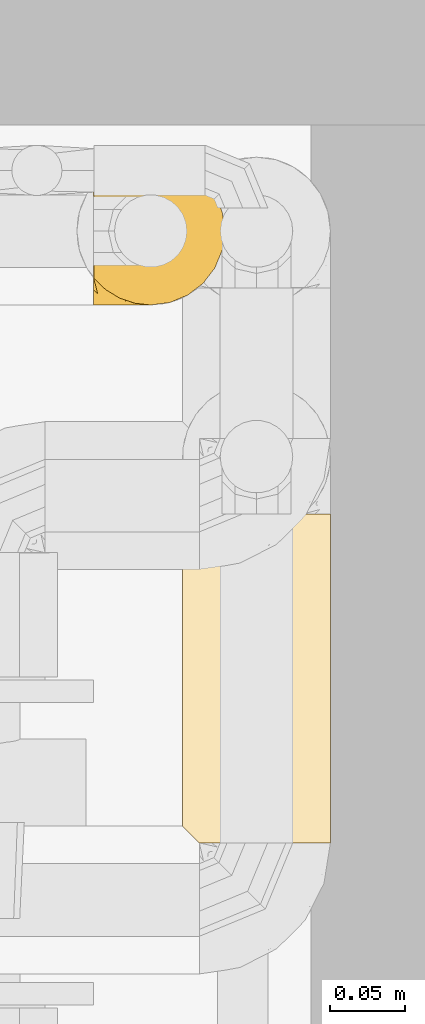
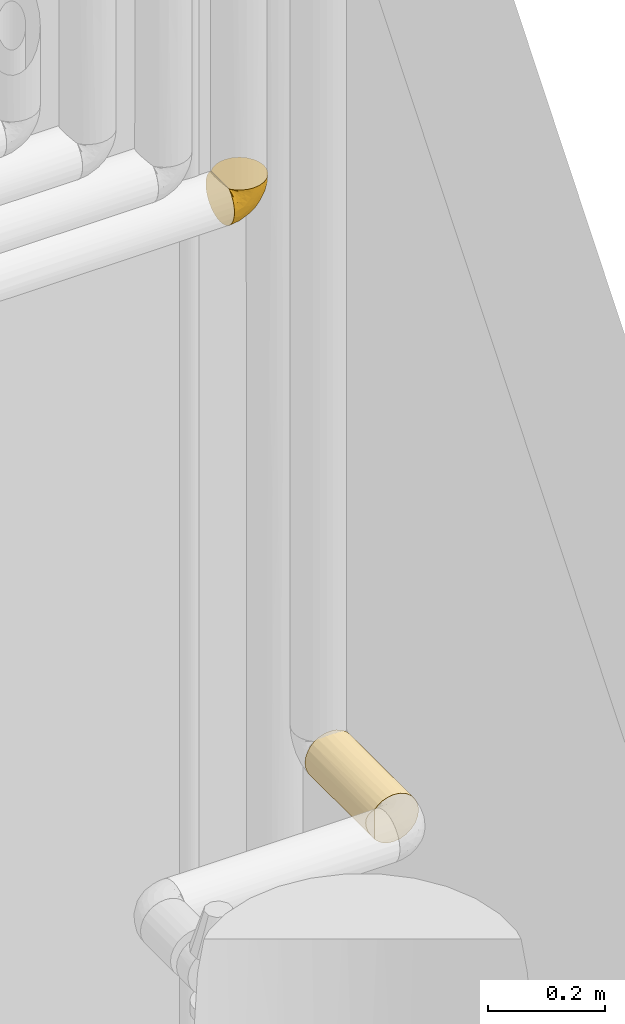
# One storey, part 62 of 94: 2 coverings.
"""IFC2X3 building model written with IfcOpenShell, lengths in millimetres."""

from ifc_helpers import new_model, entity, si_unit, converted_unit, derived_unit, direction, frame, origin, place, context, subcontext, project, spatial, faceted_brep, material, element, save


model = new_model("IFC2X3")

# Units and contexts
model_context = context("Model", 3, precision=0.01, world=origin(), true_north=direction((6.123031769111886e-17, 1.0)))
body_context = subcontext(model_context, "Body", "Model", "MODEL_VIEW")
ifc_project = project(units=[si_unit("LENGTHUNIT", "METRE", prefix="MILLI"), si_unit("AREAUNIT", "SQUARE_METRE"), si_unit("VOLUMEUNIT", "CUBIC_METRE"), converted_unit("PLANEANGLEUNIT", "DEGREE", entity("IfcRatioMeasure", 0.017453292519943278), si_unit("PLANEANGLEUNIT", "RADIAN"), dimensions=[0, 0, 0, 0, 0, 0, 0]), si_unit("MASSUNIT", "GRAM", prefix="KILO"), derived_unit("MASSDENSITYUNIT", [(si_unit("MASSUNIT", "GRAM", prefix="KILO"), 1), (si_unit("LENGTHUNIT", "METRE"), -3)]), derived_unit("IONCONCENTRATIONUNIT", [(si_unit("MASSUNIT", "GRAM", prefix="KILO"), 1), (si_unit("LENGTHUNIT", "METRE"), -3)]), derived_unit("MOMENTOFINERTIAUNIT", [(si_unit("LENGTHUNIT", "METRE"), 4)]), si_unit("TIMEUNIT", "SECOND"), si_unit("FREQUENCYUNIT", "HERTZ"), si_unit("THERMODYNAMICTEMPERATUREUNIT", "DEGREE_CELSIUS"), derived_unit("THERMALTRANSMITTANCEUNIT", [(si_unit("MASSUNIT", "GRAM", prefix="KILO"), 1), (si_unit("THERMODYNAMICTEMPERATUREUNIT", "KELVIN"), -1), (si_unit("TIMEUNIT", "SECOND"), -3)]), derived_unit("THERMALCONDUCTANCEUNIT", [(si_unit("MASSUNIT", "GRAM", prefix="KILO"), 1), (si_unit("THERMODYNAMICTEMPERATUREUNIT", "KELVIN"), -1), (si_unit("TIMEUNIT", "SECOND"), -3), (si_unit("LENGTHUNIT", "METRE"), 1)]), derived_unit("VOLUMETRICFLOWRATEUNIT", [(si_unit("LENGTHUNIT", "METRE"), 3), (si_unit("TIMEUNIT", "SECOND"), -1)]), derived_unit("MASSFLOWRATEUNIT", [(si_unit("MASSUNIT", "GRAM", prefix="KILO"), 1), (si_unit("TIMEUNIT", "SECOND"), -1)]), derived_unit("ROTATIONALFREQUENCYUNIT", [(si_unit("TIMEUNIT", "SECOND"), -1)]), si_unit("ELECTRICCURRENTUNIT", "AMPERE"), si_unit("ELECTRICVOLTAGEUNIT", "VOLT"), si_unit("POWERUNIT", "WATT"), si_unit("FORCEUNIT", "NEWTON", prefix="KILO"), si_unit("ILLUMINANCEUNIT", "LUX"), si_unit("LUMINOUSFLUXUNIT", "LUMEN"), si_unit("LUMINOUSINTENSITYUNIT", "CANDELA"), derived_unit("USERDEFINED", [(si_unit("MASSUNIT", "GRAM", prefix="KILO"), -1), (si_unit("LENGTHUNIT", "METRE"), -2), (si_unit("TIMEUNIT", "SECOND"), 3), (si_unit("LUMINOUSFLUXUNIT", "LUMEN"), 1)]), derived_unit("USERDEFINED", [(si_unit("MASSUNIT", "GRAM", prefix="KILO"), 1), (si_unit("TIMEUNIT", "SECOND"), -3), (si_unit("LENGTHUNIT", "METRE"), 3), (si_unit("ELECTRICCURRENTUNIT", "AMPERE"), -2)]), derived_unit("SOUNDPOWERUNIT", [(si_unit("MASSUNIT", "GRAM", prefix="KILO"), 1), (si_unit("TIMEUNIT", "SECOND"), -3), (si_unit("LENGTHUNIT", "METRE"), 2)]), derived_unit("SOUNDPRESSUREUNIT", [(si_unit("MASSUNIT", "GRAM", prefix="KILO"), 1), (si_unit("LENGTHUNIT", "METRE"), -1), (si_unit("TIMEUNIT", "SECOND"), -2)]), derived_unit("LINEARVELOCITYUNIT", [(si_unit("LENGTHUNIT", "METRE"), 1), (si_unit("TIMEUNIT", "SECOND"), -1)]), si_unit("PRESSUREUNIT", "PASCAL"), derived_unit("USERDEFINED", [(si_unit("MASSUNIT", "GRAM", prefix="KILO"), 1), (si_unit("LENGTHUNIT", "METRE"), -2), (si_unit("TIMEUNIT", "SECOND"), -2)]), derived_unit("LINEARFORCEUNIT", [(si_unit("MASSUNIT", "GRAM", prefix="KILO"), 1), (si_unit("TIMEUNIT", "SECOND"), -2)]), derived_unit("PLANARFORCEUNIT", [(si_unit("MASSUNIT", "GRAM", prefix="KILO"), 1), (si_unit("LENGTHUNIT", "METRE"), -1), (si_unit("TIMEUNIT", "SECOND"), -2)]), derived_unit("SPECIFICHEATCAPACITYUNIT", [(si_unit("THERMODYNAMICTEMPERATUREUNIT", "KELVIN"), -1), (si_unit("LENGTHUNIT", "METRE"), 2), (si_unit("TIMEUNIT", "SECOND"), -2)]), derived_unit("HEATINGVALUEUNIT", [(si_unit("LENGTHUNIT", "METRE"), 2), (si_unit("TIMEUNIT", "SECOND"), -2)]), derived_unit("VAPORPERMEABILITYUNIT", [(si_unit("LENGTHUNIT", "METRE"), -1), (si_unit("TIMEUNIT", "SECOND"), 1)]), derived_unit("DYNAMICVISCOSITYUNIT", [(si_unit("MASSUNIT", "GRAM", prefix="KILO"), 1), (si_unit("TIMEUNIT", "SECOND"), -1), (si_unit("LENGTHUNIT", "METRE"), -1)]), derived_unit("THERMALEXPANSIONCOEFFICIENTUNIT", [(si_unit("THERMODYNAMICTEMPERATUREUNIT", "KELVIN"), -1)]), derived_unit("MODULUSOFELASTICITYUNIT", [(si_unit("MASSUNIT", "GRAM", prefix="KILO"), 1), (si_unit("LENGTHUNIT", "METRE"), -1), (si_unit("TIMEUNIT", "SECOND"), -2)]), derived_unit("ISOTHERMALMOISTURECAPACITYUNIT", [(si_unit("LENGTHUNIT", "METRE"), 3), (si_unit("MASSUNIT", "GRAM", prefix="KILO"), -1)]), derived_unit("MOISTUREDIFFUSIVITYUNIT", [(si_unit("TIMEUNIT", "SECOND"), -1), (si_unit("LENGTHUNIT", "METRE"), 2)])], contexts=[model_context])

# Site, building, storey
site_placement = place(None, origin())
site = spatial("IfcSite", under=ifc_project, at=site_placement, Name="Default", CompositionType="ELEMENT")
building_placement = place(site_placement, origin())
building = spatial("IfcBuilding", under=site, at=building_placement, CompositionType="ELEMENT")
storey_placement = place(building_placement, origin())
storey = spatial("IfcBuildingStorey", under=building, at=storey_placement, Name="Niveau 0", CompositionType="ELEMENT", Elevation=0.0)

# Coverings
ifc_material = material(Name="Isolation - Laine minérale")
covering_1_placement = place(storey_placement, frame((-5898.767585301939, 9976.100352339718, 2399.2547277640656)))
element("IfcCovering", 1, at=covering_1_placement, inside=storey, material=ifc_material, Name="Isolation des canalisations:Laine minérale", ObjectType="Isolation des canalisations:Laine minérale", PredefinedType="INSULATION", context=body_context, shape_type="Brep", body=[
    faceted_brep([(1.5952722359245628, 95.02415814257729, 29.4121345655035), (1.5952722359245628, 89.1663101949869, 20.093252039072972), (1.5952722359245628, 81.38263886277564, 12.312548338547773), (1.5952722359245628, 72.06354573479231, 6.459227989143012), (1.5952722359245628, 61.67593083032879, 2.826140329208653), (1.5952722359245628, 50.74527223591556, 1.5952722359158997), (1.5952722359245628, 39.80290363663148, 2.828812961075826), (1.5952722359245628, 29.412134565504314, 6.466386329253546), (1.5952722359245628, 20.093252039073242, 12.324234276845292), (1.5952722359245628, 12.312548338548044, 20.107905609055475), (1.5952722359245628, 6.459227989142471, 29.426998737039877), (1.5952722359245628, 2.826140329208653, 39.814613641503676), (1.5952722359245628, 1.5952722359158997, 50.74527223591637), (1.5952722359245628, 2.765001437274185, 61.40435822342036), (1.5952722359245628, 6.216868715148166, 71.55257335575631), (1.5952722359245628, 11.785042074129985, 80.7089663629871), (1.5952722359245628, 19.19437336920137, 88.43165280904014), (1.5952722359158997, 21.638642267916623, 88.43165280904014), (1.5952722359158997, 23.415694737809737, 88.43165280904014), (1.5952722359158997, 25.192747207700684, 88.43165280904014), (1.5952722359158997, 26.692340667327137, 88.43165280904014), (1.5952722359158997, 28.191934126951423, 88.43165280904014), (1.5952722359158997, 31.1911210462, 88.43165280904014), (1.5952722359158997, 34.19030796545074, 88.43165280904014), (1.5952722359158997, 37.18949488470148, 88.43165280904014), (1.5952722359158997, 40.18868180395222, 88.43165280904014), (1.5952722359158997, 41.68827526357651, 88.43165280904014), (1.5952722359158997, 43.18786872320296, 88.43165280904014), (1.5952722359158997, 45.63213762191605, 88.43165280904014), (1.5952722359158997, 48.07640652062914, 88.43165280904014), (1.5952722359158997, 50.5206754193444, 88.43165280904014), (1.5952722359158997, 52.96494431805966, 88.43165280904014), (1.5952722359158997, 55.409213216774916, 88.43165280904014), (1.5952722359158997, 57.85348211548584, 88.43165280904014), (1.5952722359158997, 60.2977510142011, 88.43165280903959), (1.5952722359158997, 62.742019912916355, 88.43165280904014), (1.5952722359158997, 65.18628881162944, 88.43165280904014), (1.5952722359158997, 67.6305577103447, 88.43165280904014), (1.5952722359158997, 70.0748266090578, 88.43165280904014), (1.5952722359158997, 72.51909550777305, 88.43165280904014), (1.5952722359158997, 74.96336440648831, 88.43165280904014), (1.5952722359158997, 77.4076333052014, 88.43165280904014), (1.5952722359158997, 79.85190220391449, 88.43165280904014), (1.5952722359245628, 82.29617110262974, 88.43165280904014), (1.5952722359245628, 89.71827412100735, 80.69235262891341), (1.5952722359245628, 95.28368576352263, 71.5311381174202), (1.5952722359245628, 98.73008326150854, 61.38390047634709), (1.5952722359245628, 99.89527223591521, 50.74527223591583), (1.5952722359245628, 98.66173151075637, 39.80290363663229), (9.641963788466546, 11.777056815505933, 88.74527223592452), (18.798688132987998, 6.211862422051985, 88.74527223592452), (28.94385431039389, 2.7632985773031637, 88.74527223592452), (39.59527223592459, 1.5952722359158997, 88.74527223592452), (52.31622830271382, 3.270017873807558, 88.74527223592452), (64.17027223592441, 8.18012363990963, 88.74527223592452), (74.34957053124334, 15.990973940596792, 88.74527223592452), (82.16042083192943, 26.170272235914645, 88.74527223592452), (87.07052659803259, 38.02431616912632, 88.74527223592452), (88.74527223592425, 50.74527223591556, 88.74527223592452), (87.07052659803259, 63.46622830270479, 88.74527223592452), (82.16042083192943, 75.3202722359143, 88.74527223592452), (74.34957053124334, 85.49957053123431, 88.74527223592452), (64.17027223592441, 93.31042083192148, 88.74527223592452), (52.31622830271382, 98.22052659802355, 88.74527223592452), (39.59527223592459, 99.89527223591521, 88.74527223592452), (28.94385431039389, 98.72724589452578, 88.74527223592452), (18.798688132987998, 95.27868204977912, 88.74527223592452), (9.641963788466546, 89.71348765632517, 88.74527223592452), (1.908891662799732, 82.29617110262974, 88.74527223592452), (1.908891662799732, 79.85190220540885, 88.74527223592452), (1.908891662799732, 78.3523087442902, 88.74527223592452), (1.908891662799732, 76.3803775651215, 88.74527223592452), (1.908891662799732, 74.40844638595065, 88.74527223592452), (1.908891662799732, 72.43651520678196, 88.74527223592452), (1.908891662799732, 70.46458402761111, 88.74527223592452), (1.908891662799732, 68.49265284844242, 88.74527223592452), (1.908891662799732, 66.52072166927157, 88.74527223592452), (1.908891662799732, 64.54879049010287, 88.74527223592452), (1.908891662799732, 62.57685931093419, 88.74527223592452), (1.908891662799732, 60.6049281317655, 88.74527223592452), (1.908891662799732, 58.632996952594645, 88.74527223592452), (1.908891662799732, 56.661065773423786, 88.74527223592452), (1.908891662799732, 54.6891345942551, 88.74527223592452), (1.908891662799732, 52.71720341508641, 88.74527223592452), (1.908891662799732, 50.74527223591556, 88.74527223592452), (1.908891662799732, 48.773341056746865, 88.74527223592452), (1.908891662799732, 46.80140987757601, 88.74527223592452), (1.908891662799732, 44.82947869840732, 88.74527223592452), (1.908891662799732, 42.85754751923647, 88.74527223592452), (1.908891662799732, 40.88561634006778, 88.74527223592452), (1.908891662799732, 38.913685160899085, 88.74527223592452), (1.908891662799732, 36.94175398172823, 88.74527223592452), (1.908891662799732, 34.96982280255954, 88.74527223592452), (1.908891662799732, 31.97063588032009, 88.74527223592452), (1.908891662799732, 28.971448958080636, 88.74527223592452), (1.9088916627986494, 26.5271800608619, 88.74527223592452), (1.908891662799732, 24.082911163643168, 88.74527223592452), (1.908891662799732, 21.638642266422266, 88.74527223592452), (1.908891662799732, 19.19437336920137, 88.74527223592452), (1.8241875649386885, 53.75333970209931, 88.5309012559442), (1.815624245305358, 51.832765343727, 88.52210831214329), (1.8147227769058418, 61.47290163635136, 88.5212217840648), (1.8212241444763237, 63.562825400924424, 88.52777998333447), (1.8331787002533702, 48.00102702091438, 88.54092532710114), (1.828016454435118, 77.2499939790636, 88.53506454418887), (1.7792781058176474, 80.69913834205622, 88.4913057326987), (1.8114926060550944, 42.43807145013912, 88.51810292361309), (1.8170346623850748, 22.860776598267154, 88.52350981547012), (1.81898896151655, 24.70021643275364, 88.52548149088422), (1.8098308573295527, 71.3700895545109, 88.51653277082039), (1.820221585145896, 73.40383885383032, 88.52674320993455), (1.796462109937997, 44.410002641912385, 88.50469006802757), (1.8230063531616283, 37.92771907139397, 88.52964682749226), (1.8262968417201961, 39.81308540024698, 88.53317608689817), (1.8091041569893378, 35.95578792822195, 88.51585328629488), (1.8225274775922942, 49.75930651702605, 88.52914218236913), (1.817034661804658, 79.10210557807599, 88.5235098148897), (1.8194169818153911, 21.02757498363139, 88.52591800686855), (1.8294378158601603, 55.67510065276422, 88.53664906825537), (1.8301744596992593, 67.50668767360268, 88.53747885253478), (1.82588831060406, 65.61454699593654, 88.53273195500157), (1.8272900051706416, 34.104580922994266, 88.53426299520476), (1.8267767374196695, 57.55217518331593, 88.5337000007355), (1.8278964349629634, 75.39441218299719, 88.53493173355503), (1.8170346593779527, 82.29617110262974, 88.523509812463), (1.747915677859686, 82.29617110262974, 88.4948797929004), (1.6787966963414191, 82.29617110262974, 88.46624977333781), (1.8170346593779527, 19.19437336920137, 88.523509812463), (1.8456646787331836, 19.19437336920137, 88.59262879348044), (1.8742946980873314, 19.19437336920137, 88.66174777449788), (1.802653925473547, 32.212157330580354, 88.51000647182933), (1.8237404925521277, 69.4355922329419, 88.53042484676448), (1.8159875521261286, 46.248287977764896, 88.52246762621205), (1.8182226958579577, 59.49061335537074, 88.52470424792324), (1.7977740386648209, 29.41925201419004, 88.50579329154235), (1.8208977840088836, 27.44213716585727, 88.52744143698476), (1.8742946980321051, 82.29617110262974, 88.66174777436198), (1.8456646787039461, 82.29617110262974, 88.59262879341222), (1.6787966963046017, 19.19437336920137, 88.46624977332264), (1.7479156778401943, 19.19437336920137, 88.49487979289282), (23.495219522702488, 4.210283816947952, 85.22080157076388), (13.747756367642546, 8.744179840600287, 85.93611072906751), (22.409779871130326, 4.210283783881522, 81.07807843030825), (10.56252268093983, 9.955583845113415, 83.13289242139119), (37.049754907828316, 1.5952722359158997, 79.24527223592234), (37.59734391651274, 1.5952722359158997, 81.28890223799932), (20.595272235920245, 1.5952722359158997, 55.83630689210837), (16.020149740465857, 2.93549782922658, 66.39553001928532), (9.261677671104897, 4.213452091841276, 67.94040403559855), (34.50423757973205, 1.5952722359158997, 69.74527223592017), (9.667897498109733, 9.405305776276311, 80.6737838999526), (7.20291242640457, 9.963487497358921, 79.78892094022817), (23.94474674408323, 2.9356418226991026, 74.32109358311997), (5.119390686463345, 4.213452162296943, 66.8547059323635), (4.402893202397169, 8.750654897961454, 76.60336361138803), (17.541506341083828, 5.690627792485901, 79.64911936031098), (9.051642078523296, 1.5952722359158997, 52.74320051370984), (11.095272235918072, 1.5952722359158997, 53.290789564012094), (16.72885944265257, 4.482619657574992, 73.61168493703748), (27.549754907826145, 1.5952722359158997, 62.79078956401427), (12.071559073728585, 5.766057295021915, 73.87988529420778), (47.62395095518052, 2.6117250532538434, 75.3291367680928), (44.00144112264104, 2.657531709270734, 65.91074185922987), (58.899698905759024, 11.131578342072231, 53.847614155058), (72.66771487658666, 20.824647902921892, 59.13651173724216), (67.20155656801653, 11.7519547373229, 71.1661224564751), (54.07984229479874, 5.336592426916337, 67.00545271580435), (57.54110754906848, 5.33659286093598, 78.88051287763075), (72.10110329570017, 50.74527223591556, 37.51978749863), (84.47984763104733, 50.74527223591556, 61.81444117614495), (80.24801351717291, 40.339739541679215, 53.87520138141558), (13.851436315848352, 9.12424327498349, 25.784943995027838), (15.165285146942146, 4.351045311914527, 36.244182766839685), (60.77765845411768, 32.64695426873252, 29.562882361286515), (55.38583609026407, 23.768909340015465, 30.770681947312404), (43.89737524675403, 35.61531809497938, 15.292222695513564), (86.12648113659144, 41.696133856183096, 71.31385843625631), (73.23168363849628, 30.50981773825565, 47.24102741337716), (64.74738573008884, 21.748430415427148, 43.50389303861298), (77.40373146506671, 20.824647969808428, 75.28985257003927), (82.14716981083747, 31.9363827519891, 67.10273039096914), (52.829115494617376, 15.984346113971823, 37.099200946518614), (48.878965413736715, 9.509703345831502, 44.515176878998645), (40.607220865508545, 11.405769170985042, 33.70477633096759), (28.76995319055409, 3.723532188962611, 44.051694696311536), (27.448445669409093, 9.124242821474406, 30.044081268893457), (19.800365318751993, 15.984347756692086, 18.312338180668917), (28.52610329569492, 50.74527223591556, 5.860696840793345), (22.71562192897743, 34.50535109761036, 7.04140620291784), (42.31748570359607, 18.53593481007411, 25.61446965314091), (33.68382770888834, 24.588194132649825, 15.8869158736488), (16.806973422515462, 24.58819389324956, 10.600409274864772), (71.07858054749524, 39.07585882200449, 38.50378416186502), (60.332491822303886, 42.346184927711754, 25.34518062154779), (33.37332146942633, 2.563252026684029, 53.16350413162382), (52.82075697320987, 50.74527223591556, 18.23944117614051), (43.46542968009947, 4.72244931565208, 52.69469876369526), (79.2001746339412, 69.55416102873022, 58.175892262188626), (86.24488809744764, 59.5851078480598, 71.70091272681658), (80.83807017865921, 59.865425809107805, 54.574333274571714), (72.52816019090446, 66.13789702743, 42.49805076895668), (83.87397883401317, 69.55416221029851, 75.06235489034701), (35.798660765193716, 85.49332197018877, 24.525141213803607), (48.02046276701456, 78.98858976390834, 25.78634265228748), (33.68736739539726, 76.88743080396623, 15.878231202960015), (52.83844921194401, 85.49294527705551, 37.089792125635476), (59.75598123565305, 78.28666517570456, 35.71336208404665), (15.17001623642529, 97.13479117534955, 36.23150879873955), (45.55141709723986, 98.95303587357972, 70.53804152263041), (34.50423757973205, 99.89527223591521, 69.74527223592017), (37.049754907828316, 99.89527223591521, 79.24527223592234), (22.71467774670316, 66.97173870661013, 7.036299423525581), (76.07714087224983, 80.665896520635, 69.24086116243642), (27.45465165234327, 92.35692696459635, 30.030512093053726), (13.854008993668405, 92.35692651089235, 25.770245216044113), (68.47065883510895, 89.73858944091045, 76.87540408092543), (56.45843349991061, 96.15395178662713, 74.00473445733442), (68.08854506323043, 79.62483877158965, 48.41047025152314), (64.29272071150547, 89.7385902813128, 62.62553049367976), (66.01125638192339, 59.508159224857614, 31.22077674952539), (60.78019542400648, 68.83452868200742, 29.56034539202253), (48.01911236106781, 99.01263503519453, 79.82666983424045), (16.809109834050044, 76.88743104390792, 10.591274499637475), (43.900853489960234, 65.85652255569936, 15.287247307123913), (19.803681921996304, 85.49294363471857, 18.299506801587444), (28.786726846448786, 97.76388503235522, 44.049870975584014), (20.595272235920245, 99.89527223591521, 55.83630689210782), (35.485066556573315, 98.78930951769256, 54.23536248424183), (27.549754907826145, 99.89527223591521, 62.79078956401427), (9.051642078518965, 99.89527223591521, 52.74320051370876), (11.095272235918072, 99.89527223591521, 53.290789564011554), (53.16291239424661, 91.50386042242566, 48.41211537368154), (52.05308452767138, 96.4268312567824, 64.1430470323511), (41.401037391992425, 93.14991945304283, 40.10640265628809), (40.721221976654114, 99.08337182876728, 62.890734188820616), (60.91677547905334, 86.09107557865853, 47.6727783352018), (45.94061161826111, 96.67816905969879, 55.38955823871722), (22.409778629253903, 97.28026029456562, 81.07807840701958), (16.46425424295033, 95.72662397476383, 78.26566497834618), (23.943292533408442, 98.55465842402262, 74.32072912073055), (23.495218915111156, 97.28026045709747, 85.22080145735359), (13.74775580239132, 92.74636428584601, 85.93611080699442), (10.564867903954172, 91.53641117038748, 83.13257230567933), (7.656624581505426, 90.11275627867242, 82.68198005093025), (16.72348133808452, 97.0051951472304, 73.61706381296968), (7.2165179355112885, 91.54965419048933, 79.75777141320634), (9.263185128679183, 97.2842704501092, 67.91845358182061), (5.119593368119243, 97.28427059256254, 66.83334757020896), (4.405878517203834, 92.75147496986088, 76.58449008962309), (16.01862728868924, 98.55441347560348, 66.39770760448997), (10.692146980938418, 95.80583125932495, 72.78382599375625)], [[[0, 1, 2, 3, 4, 5, 6, 7, 8, 9, 10, 11, 12, 13, 14, 15, 16, 17, 18, 19, 20, 21, 22, 23, 24, 25, 26, 27, 28, 29, 30, 31, 32, 33, 34, 35, 36, 37, 38, 39, 40, 41, 42, 43, 44, 45, 46, 47, 48]], [[49, 50, 51, 52, 53, 54, 55, 56, 57, 58, 59, 60, 61, 62, 63, 64, 65, 66, 67, 68, 69, 70, 71, 72, 73, 74, 75, 76, 77, 78, 79, 80, 81, 82, 83, 84, 85, 86, 87, 88, 89, 90, 91, 92, 93, 94, 95, 96, 97, 98]], [[99, 100, 83]], [[101, 102, 35]], [[85, 103, 86]], [[71, 70, 104]], [[105, 69, 68]], [[27, 26, 106]], [[18, 107, 108]], [[109, 73, 110]], [[28, 27, 111]], [[25, 112, 113]], [[108, 96, 95]], [[114, 92, 91]], [[103, 85, 115]], [[96, 107, 97]], [[116, 70, 69]], [[107, 17, 117]], [[78, 102, 101]], [[99, 118, 32]], [[76, 119, 120]], [[121, 92, 114]], [[112, 90, 113]], [[88, 111, 106]], [[40, 39, 110]], [[107, 96, 108]], [[32, 118, 122]], [[91, 90, 112]], [[37, 120, 119]], [[84, 115, 85]], [[69, 105, 116]], [[71, 123, 72]], [[105, 124, 125, 126, 43]], [[117, 17, 16]], [[41, 116, 42]], [[117, 127, 128, 129, 98]], [[110, 123, 40]], [[42, 116, 105]], [[121, 23, 130]], [[24, 114, 112]], [[114, 24, 23]], [[104, 123, 71]], [[91, 112, 114]], [[104, 116, 41]], [[24, 112, 25]], [[110, 72, 123]], [[36, 120, 37]], [[40, 123, 41]], [[74, 73, 109]], [[131, 75, 74]], [[119, 131, 37]], [[109, 110, 39]], [[109, 39, 38]], [[73, 72, 110]], [[123, 104, 41]], [[116, 104, 70]], [[26, 25, 113]], [[113, 89, 106]], [[87, 86, 132]], [[113, 106, 26]], [[76, 75, 119]], [[132, 111, 87]], [[106, 111, 27]], [[132, 28, 111]], [[87, 111, 88]], [[88, 106, 89]], [[113, 90, 89]], [[131, 119, 75]], [[38, 37, 131]], [[120, 36, 102]], [[131, 109, 38]], [[109, 131, 74]], [[78, 77, 102]], [[77, 120, 102]], [[77, 76, 120]], [[122, 80, 133]], [[36, 35, 102]], [[33, 122, 133]], [[79, 78, 101]], [[34, 101, 35]], [[132, 29, 28]], [[80, 79, 133]], [[29, 103, 115]], [[30, 29, 115]], [[86, 103, 132]], [[100, 115, 84]], [[31, 30, 100]], [[115, 100, 30]], [[32, 31, 99]], [[118, 81, 122]], [[100, 84, 83]], [[99, 82, 118]], [[81, 118, 82]], [[33, 32, 122]], [[82, 99, 83]], [[100, 99, 31]], [[34, 33, 133]], [[122, 81, 80]], [[133, 101, 34]], [[101, 133, 79]], [[134, 94, 93]], [[23, 121, 114]], [[132, 103, 29]], [[121, 93, 92]], [[93, 121, 130]], [[97, 107, 117]], [[108, 20, 19, 18]], [[21, 135, 134]], [[20, 135, 21]], [[134, 135, 94]], [[108, 95, 135]], [[108, 135, 20]], [[135, 95, 94]], [[134, 22, 21]], [[130, 22, 134]], [[42, 105, 43]], [[105, 68, 136, 137, 124]], [[97, 117, 98]], [[117, 16, 138, 139, 127]], [[18, 17, 107]], [[93, 130, 134]], [[22, 130, 23]], [[140, 141, 142]], [[143, 129, 128, 127]], [[51, 144, 145, 52]], [[146, 147, 148]], [[142, 149, 144]], [[150, 127, 151]], [[50, 140, 51]], [[142, 152, 149]], [[51, 140, 144]], [[129, 143, 141]], [[14, 13, 153]], [[148, 151, 154]], [[155, 141, 143]], [[151, 138, 154]], [[14, 153, 154]], [[16, 15, 138]], [[13, 12, 156, 157]], [[152, 155, 158]], [[159, 158, 147]], [[157, 148, 153]], [[14, 154, 15]], [[49, 98, 129]], [[49, 129, 141]], [[141, 50, 49]], [[160, 148, 147]], [[146, 148, 157]], [[138, 15, 154]], [[150, 158, 155]], [[151, 127, 139, 138]], [[141, 140, 50]], [[144, 140, 142]], [[157, 153, 13]], [[154, 153, 148]], [[149, 152, 159]], [[160, 147, 158]], [[147, 146, 159]], [[155, 152, 142]], [[159, 152, 158]], [[127, 150, 143]], [[160, 150, 151]], [[150, 160, 158]], [[148, 160, 151]], [[141, 155, 142]], [[155, 143, 150]], [[156, 12, 11]], [[161, 149, 162]], [[163, 164, 165]], [[166, 167, 161]], [[168, 169, 170]], [[54, 165, 55]], [[171, 172, 10]], [[173, 174, 175]], [[57, 176, 58]], [[173, 177, 178]], [[179, 56, 55]], [[54, 167, 165]], [[170, 180, 177]], [[56, 179, 180]], [[167, 54, 53]], [[181, 182, 183]], [[184, 146, 172]], [[172, 185, 184]], [[186, 185, 171]], [[186, 9, 8]], [[172, 146, 157, 156]], [[172, 11, 10]], [[173, 178, 174]], [[6, 187, 188]], [[189, 186, 190]], [[191, 186, 8]], [[175, 190, 188]], [[168, 192, 193]], [[189, 190, 174]], [[56, 180, 57]], [[8, 7, 191]], [[188, 7, 6]], [[6, 5, 187]], [[190, 191, 188]], [[159, 194, 162]], [[175, 187, 195]], [[177, 180, 164]], [[10, 9, 171]], [[176, 180, 170]], [[156, 11, 172]], [[163, 165, 166]], [[179, 165, 164]], [[53, 52, 145]], [[185, 189, 183]], [[184, 196, 194]], [[188, 191, 7]], [[186, 191, 190]], [[186, 171, 9]], [[172, 171, 185]], [[187, 175, 188]], [[193, 175, 195]], [[196, 163, 166]], [[163, 181, 178]], [[162, 166, 161]], [[184, 185, 183]], [[178, 177, 164]], [[177, 192, 170]], [[177, 173, 192]], [[176, 170, 169]], [[58, 176, 169]], [[57, 180, 176]], [[193, 192, 173]], [[168, 170, 192]], [[175, 193, 173]], [[168, 193, 195]], [[163, 178, 164]], [[184, 194, 146]], [[178, 181, 174]], [[189, 174, 181]], [[175, 174, 190]], [[183, 189, 181]], [[186, 189, 185]], [[182, 181, 163]], [[183, 182, 184]], [[163, 196, 182]], [[184, 182, 196]], [[165, 179, 55]], [[180, 179, 164]], [[161, 53, 145]], [[165, 167, 166]], [[53, 161, 167]], [[161, 145, 144, 149]], [[159, 162, 149]], [[196, 166, 162]], [[162, 194, 196]], [[146, 194, 159]], [[197, 198, 199]], [[58, 169, 198]], [[197, 199, 200]], [[198, 197, 201]], [[202, 203, 204]], [[60, 59, 201]], [[205, 206, 203]], [[0, 48, 207]], [[208, 209, 210]], [[187, 4, 211]], [[201, 212, 60]], [[213, 214, 207]], [[61, 215, 62]], [[62, 215, 216]], [[3, 211, 4]], [[217, 218, 212]], [[219, 220, 200]], [[216, 208, 221]], [[3, 2, 222]], [[62, 216, 63]], [[61, 60, 212]], [[211, 3, 222]], [[5, 4, 187]], [[217, 197, 200]], [[203, 223, 204]], [[2, 1, 224]], [[225, 213, 207]], [[204, 222, 224]], [[1, 0, 214]], [[204, 224, 202]], [[207, 226, 225]], [[227, 226, 228]], [[223, 211, 204]], [[214, 224, 1]], [[202, 224, 213]], [[48, 47, 229]], [[207, 229, 230, 226]], [[211, 223, 187]], [[218, 231, 232]], [[48, 229, 207]], [[205, 233, 231]], [[233, 213, 225]], [[217, 212, 197]], [[215, 212, 218]], [[228, 234, 227]], [[233, 205, 202]], [[208, 234, 209]], [[63, 221, 64]], [[235, 205, 231]], [[207, 214, 0]], [[224, 214, 213]], [[224, 222, 2]], [[211, 222, 204]], [[219, 223, 220]], [[187, 223, 195]], [[227, 233, 225]], [[234, 228, 209]], [[231, 233, 236]], [[221, 208, 210]], [[232, 208, 216]], [[64, 221, 210]], [[216, 221, 63]], [[233, 202, 213]], [[203, 202, 205]], [[205, 235, 206]], [[223, 203, 220]], [[200, 206, 217]], [[220, 203, 206]], [[232, 231, 236]], [[235, 218, 217]], [[212, 215, 61]], [[216, 215, 218]], [[218, 232, 216]], [[234, 232, 236]], [[232, 234, 208]], [[234, 236, 227]], [[233, 227, 236]], [[226, 227, 225]], [[198, 201, 59]], [[212, 201, 197]], [[58, 198, 59]], [[198, 169, 199]], [[169, 168, 199]], [[219, 200, 199]], [[219, 199, 168]], [[200, 220, 206]], [[168, 195, 219]], [[223, 219, 195]], [[218, 235, 231]], [[206, 235, 217]], [[65, 64, 210]], [[209, 237, 210]], [[238, 237, 239]], [[66, 240, 241]], [[242, 136, 241]], [[243, 137, 242]], [[243, 244, 245]], [[65, 240, 66]], [[136, 68, 67]], [[136, 67, 241]], [[246, 226, 230]], [[66, 241, 67]], [[210, 237, 240]], [[45, 247, 46]], [[209, 239, 237]], [[246, 247, 248]], [[46, 247, 230]], [[249, 250, 244]], [[239, 228, 244]], [[226, 246, 249]], [[250, 248, 245]], [[44, 43, 126]], [[237, 242, 241]], [[248, 45, 44]], [[44, 126, 248]], [[46, 230, 229, 47]], [[245, 126, 125]], [[126, 245, 248]], [[243, 124, 137]], [[210, 240, 65]], [[241, 240, 237]], [[248, 247, 45]], [[230, 247, 246]], [[226, 249, 228]], [[238, 239, 244]], [[239, 209, 228]], [[250, 249, 246]], [[228, 249, 244]], [[243, 242, 238]], [[136, 242, 137]], [[124, 243, 125]], [[125, 243, 245]], [[243, 238, 244]], [[237, 238, 242]], [[248, 250, 246]], [[244, 250, 245]]]),
])
covering_2_placement = place(storey_placement, frame((-5839.62997453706, 9618.488570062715, 1313.174727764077)))
element("IfcCovering", 2, at=covering_2_placement, inside=storey, material=ifc_material, Name="Isolation des canalisations:Laine minérale", ObjectType="Isolation des canalisations:Laine minérale", PredefinedType="INSULATION", context=body_context, shape_type="Brep", body=[
    faceted_brep([(26.160272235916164, 220.3570545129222, 93.27310032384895), (38.00949255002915, 220.3570545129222, 98.1812080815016), (50.72527223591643, 220.35705451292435, 99.85527223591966), (63.4410519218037, 220.35705451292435, 98.1812080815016), (75.29027223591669, 220.3570545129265, 93.27310032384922), (85.46542839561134, 220.3570545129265, 85.46542839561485), (93.2731003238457, 220.35705451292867, 75.29027223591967), (98.18120808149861, 220.35705451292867, 63.441051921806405), (99.85527223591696, 220.35705451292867, 50.725272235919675), (98.18120808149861, 220.35705451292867, 38.009492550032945), (93.2731003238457, 220.35705451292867, 26.16027223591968), (85.46542839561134, 220.35705451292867, 15.985116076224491), (75.29027223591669, 220.3570545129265, 8.177444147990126), (63.4410519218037, 220.3570545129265, 3.2693363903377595), (50.72527223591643, 220.35705451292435, 1.5952722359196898), (38.00949255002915, 220.35705451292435, 3.2693363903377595), (26.160272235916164, 220.3570545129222, 8.177444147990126), (15.985116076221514, 220.3570545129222, 15.985116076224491), (8.17744414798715, 220.35705451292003, 26.16027223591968), (3.26933639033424, 220.35705451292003, 38.00949255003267), (1.5952722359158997, 220.35705451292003, 50.725272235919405), (3.26933639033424, 220.35705451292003, 63.441051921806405), (8.17744414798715, 220.35705451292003, 75.29027223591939), (15.985116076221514, 220.35705451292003, 85.46542839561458), (50.72527223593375, 1.5952722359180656, 99.85527223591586), (39.93977815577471, 1.5952722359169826, 98.6567860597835), (29.695144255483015, 1.5952722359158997, 95.12674312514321), (20.473196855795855, 1.5952722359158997, 89.43662503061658), (12.723386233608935, 1.5952722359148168, 81.8638907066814), (12.727158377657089, 1.5952722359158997, 19.5820507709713), (20.476715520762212, 1.5952722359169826, 12.011169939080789), (29.697831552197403, 1.5952722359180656, 6.32252864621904), (39.94121861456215, 1.5952722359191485, 2.7934343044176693), (50.72527223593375, 1.5952722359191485, 1.5952722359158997), (63.44105192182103, 1.5952722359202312, 3.2693363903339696), (75.29027223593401, 1.595272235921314, 8.177444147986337), (85.46542839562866, 1.595272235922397, 15.985116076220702), (93.27310032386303, 1.595272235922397, 26.16027223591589), (98.18120808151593, 1.595272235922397, 38.00949255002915), (99.85527223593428, 1.595272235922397, 50.72527223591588), (98.18120808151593, 1.595272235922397, 63.44105192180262), (93.27310032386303, 1.595272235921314, 75.29027223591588), (85.46542839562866, 1.5952722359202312, 85.46542839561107), (75.29027223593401, 1.5952722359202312, 93.27310032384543), (63.44105192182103, 1.5952722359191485, 98.1812080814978), (7.966180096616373, 6.355829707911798, 26.529881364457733), (4.461872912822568, 9.859673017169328, 34.1888039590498), (2.3172268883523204, 12.003825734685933, 42.3337261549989), (1.5952722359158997, 12.725272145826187, 50.72527223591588), (2.3169727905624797, 12.003063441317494, 59.115352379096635), (4.4608714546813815, 9.858671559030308, 67.25893850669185), (7.963982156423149, 6.355097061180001, 74.91677840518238)], [[[0, 1, 2, 3, 4, 5, 6, 7, 8, 9, 10, 11, 12, 13, 14, 15, 16, 17, 18, 19, 20, 21, 22, 23]], [[24, 25, 26, 27, 28, 29, 30, 31, 32, 33, 34, 35, 36, 37, 38, 39, 40, 41, 42, 43, 44]], [[38, 37, 10, 9]], [[39, 38, 9, 8]], [[37, 36, 11, 10]], [[13, 12, 35, 34]], [[14, 13, 34, 33]], [[36, 35, 12, 11]], [[14, 33, 32]], [[15, 32, 31]], [[16, 31, 30]], [[14, 32, 15]], [[15, 31, 16]], [[30, 17, 16]], [[30, 29, 17]], [[29, 45, 18]], [[46, 47, 19]], [[45, 46, 18]], [[18, 46, 19]], [[20, 19, 47]], [[48, 20, 47]], [[29, 18, 17]], [[49, 50, 21]], [[51, 28, 22]], [[50, 51, 22]], [[48, 49, 20]], [[20, 49, 21]], [[50, 22, 21]], [[28, 23, 22]], [[0, 27, 26]], [[1, 26, 25]], [[2, 25, 24]], [[23, 27, 0]], [[0, 26, 1]], [[25, 2, 1]], [[27, 23, 28]], [[3, 2, 24, 44]], [[4, 3, 44, 43]], [[43, 42, 5, 4]], [[7, 6, 41, 40]], [[8, 7, 40, 39]], [[42, 41, 6, 5]], [[48, 47, 46, 45, 29, 28, 51, 50, 49]]]),
])

save(model, "model.ifc")
